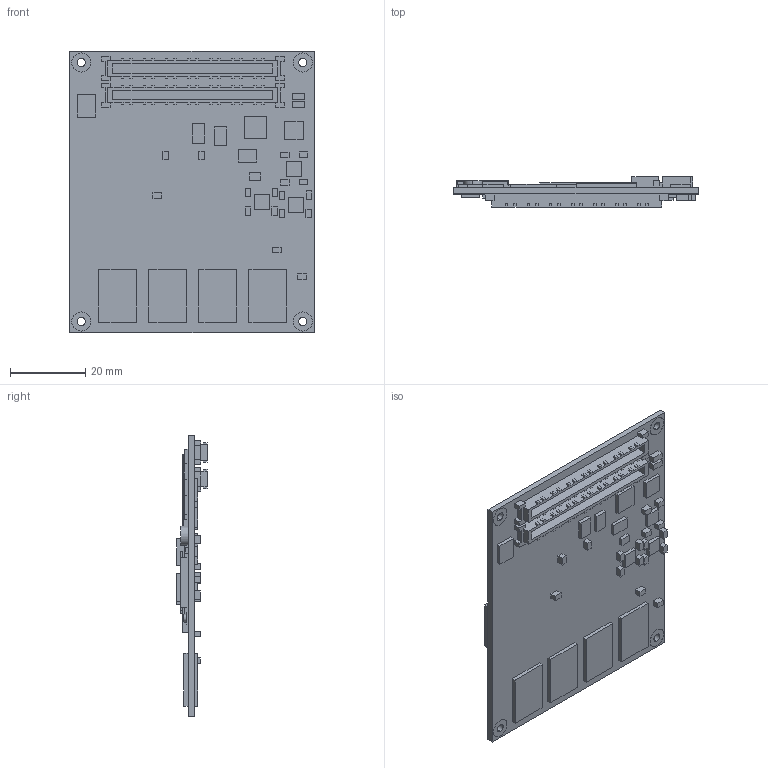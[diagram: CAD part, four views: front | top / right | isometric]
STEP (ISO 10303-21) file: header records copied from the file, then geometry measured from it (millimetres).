
FILE_DESCRIPTION (( 'STEP AP214' ), '1' );
FILE_NAME ('Stock Configuration, CM-FX6.STEP', '2014-06-15T06:53:19', ( '' ), ( '' ), 'SwSTEP 2.0', 'SolidWorks 2011', '' );
FILE_SCHEMA (( 'AUTOMOTIVE_DESIGN' ));
Length unit declared in the file: millimetre
Products named in the file (3): P18 MC-iGT; PCB-CM-FX6_Bare Die; Stock Configuration, CM-FX6
Assembly tree (3 placements, depth 2):
  Stock Configuration, CM-FX6
    P18 MC-iGT  x2
    PCB-CM-FX6_Bare Die
Bounding box: 65 x 8.1 x 75 mm (x, y, z)
Volume: 12125.2 mm3; surface area: 15258.4 mm2
Topology: 5 solids, 5 shells, 628 faces, 1644 edges, 1096 vertices
Faces by surface type: plane 596, cylinder 32
Entity records: 18062 total; most frequent: CARTESIAN_POINT 2531, ORIENTED_EDGE 2448, DIRECTION 2270, EDGE_CURVE 1224, VECTOR 1160, LINE 1160, VERTEX_POINT 816, EDGE_LOOP 562
